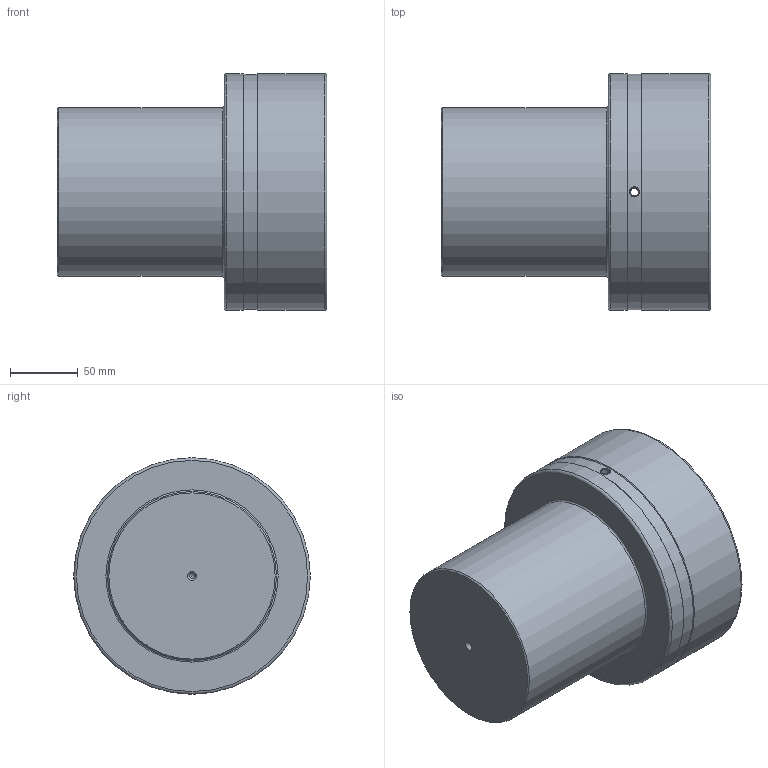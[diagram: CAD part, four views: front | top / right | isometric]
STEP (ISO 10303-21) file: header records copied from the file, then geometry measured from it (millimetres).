
FILE_DESCRIPTION(/* description */ (''),/* implementation_level */ '2;1');
FILE_NAME(/* name */ 'C:\Users\stagistacad\Desktop\00308011.stp',/* time_stamp */ '2018-06-18T11:40:18+02:00',/* author */ ('stagistacad'),/* organization */ (''),/* preprocessor_version */ 'ST-DEVELOPER v15.6',/* originating_system */ 'Autodesk Inventor 2015',/* authorisation */ '');
FILE_SCHEMA (('AUTOMOTIVE_DESIGN { 1 0 10303 214 3 1 1 }'));
Length unit declared in the file: millimetre
Products named in the file (1): 00308011
Bounding box: 199.5 x 175 x 175 mm (x, y, z)
Volume: 2220022.9 mm3; surface area: 167702.4 mm2
Topology: 1 solids, 1 shells, 31 faces, 61 edges, 36 vertices
Faces by surface type: cylinder 11, cone 8, plane 6, torus 4, bspline 2
Full cylindrical faces by diameter (mm): 3.15 x2, 6 x2, 125 x1, 150 x1, 153 x1, 155 x1, 174 x1, 175 x2
Entity records: 1060 total; most frequent: CARTESIAN_POINT 506, DIRECTION 114, ORIENTED_EDGE 68, EDGE_LOOP 62, AXIS2_PLACEMENT_3D 56, EDGE_CURVE 34, VERTEX_POINT 32, FACE_BOUND 31
